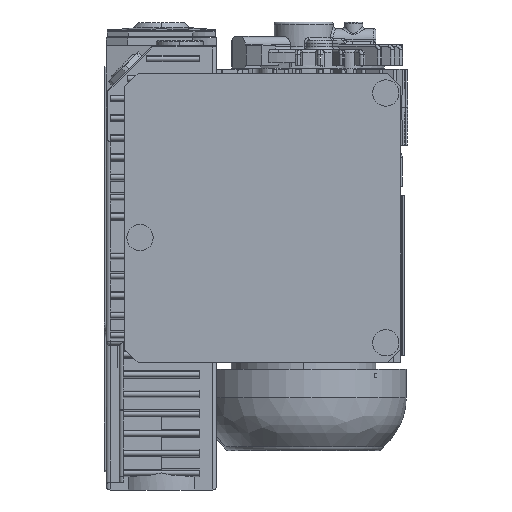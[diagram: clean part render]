
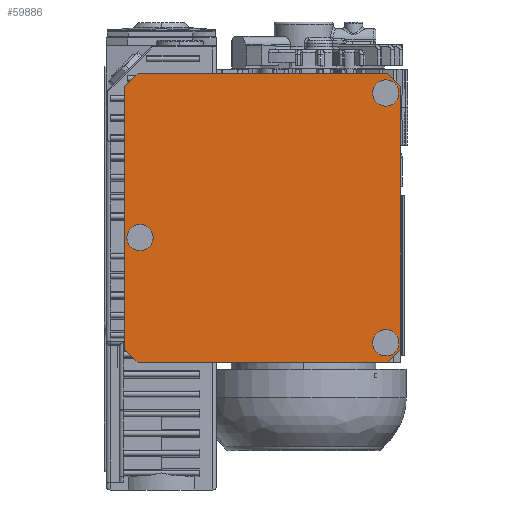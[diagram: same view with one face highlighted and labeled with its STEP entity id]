
A CAD part, front view. The second image highlights one B-rep face of the part: STEP entity #59886.
In plain terms, the highlighted planar face has unit normal (0, -1, 0).
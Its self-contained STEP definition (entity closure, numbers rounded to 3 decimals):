
#59735=DIRECTION('',(0.,0.,1.));
#59736=VECTOR('',#59735,200.);
#59737=CARTESIAN_POINT('',(14.3,-18.,107.));
#59738=LINE('',#59737,#59736);
#59739=DIRECTION('',(1.,0.,0.));
#59740=VECTOR('',#59739,190.);
#59741=CARTESIAN_POINT('',(24.3,-18.,317.));
#59742=LINE('',#59741,#59740);
#59743=DIRECTION('',(0.,0.,-1.));
#59744=VECTOR('',#59743,200.);
#59745=CARTESIAN_POINT('',(224.3,-18.,307.));
#59746=LINE('',#59745,#59744);
#59747=DIRECTION('',(-1.,0.,0.));
#59748=VECTOR('',#59747,190.);
#59749=CARTESIAN_POINT('',(214.3,-18.,97.));
#59750=LINE('',#59749,#59748);
#59755=DIRECTION('',(0.707,0.,-0.707));
#59756=VECTOR('',#59755,14.142);
#59757=CARTESIAN_POINT('',(14.3,-18.,107.));
#59758=LINE('',#59757,#59756);
#59771=DIRECTION('',(0.707,0.,0.707));
#59772=VECTOR('',#59771,14.142);
#59773=CARTESIAN_POINT('',(214.3,-18.,97.));
#59774=LINE('',#59773,#59772);
#59787=DIRECTION('',(-0.707,0.,0.707));
#59788=VECTOR('',#59787,14.142);
#59789=CARTESIAN_POINT('',(224.3,-18.,307.));
#59790=LINE('',#59789,#59788);
#59803=DIRECTION('',(-0.707,0.,-0.707));
#59804=VECTOR('',#59803,14.142);
#59805=CARTESIAN_POINT('',(24.3,-18.,317.));
#59806=LINE('',#59805,#59804);
#59831=CARTESIAN_POINT('',(224.3,-18.,307.));
#59833=VERTEX_POINT('',#59831);
#59835=CARTESIAN_POINT('',(214.3,-18.,317.));
#59837=VERTEX_POINT('',#59835);
#59839=CARTESIAN_POINT('',(24.3,-18.,317.));
#59841=VERTEX_POINT('',#59839);
#59843=CARTESIAN_POINT('',(14.3,-18.,307.));
#59845=VERTEX_POINT('',#59843);
#59847=CARTESIAN_POINT('',(224.3,-18.,107.));
#59848=VERTEX_POINT('',#59847);
#59851=CARTESIAN_POINT('',(14.3,-18.,107.));
#59852=VERTEX_POINT('',#59851);
#59855=CARTESIAN_POINT('',(214.3,-18.,97.));
#59857=VERTEX_POINT('',#59855);
#59859=CARTESIAN_POINT('',(24.3,-18.,97.));
#59861=VERTEX_POINT('',#59859);
#59863=CARTESIAN_POINT('',(14.3,-18.,97.));
#59864=DIRECTION('',(0.,1.,0.));
#59865=DIRECTION('',(1.,0.,0.));
#59866=AXIS2_PLACEMENT_3D('',#59863,#59864,#59865);
#59867=PLANE('',#59866);
#59869=ORIENTED_EDGE('',*,*,#59868,.T.);
#59871=ORIENTED_EDGE('',*,*,#59870,.F.);
#59873=ORIENTED_EDGE('',*,*,#59872,.T.);
#59875=ORIENTED_EDGE('',*,*,#59874,.F.);
#59877=ORIENTED_EDGE('',*,*,#59876,.T.);
#59879=ORIENTED_EDGE('',*,*,#59878,.F.);
#59881=ORIENTED_EDGE('',*,*,#59880,.T.);
#59883=ORIENTED_EDGE('',*,*,#59882,.F.);
#59884=EDGE_LOOP('',(#59869,#59871,#59873,#59875,#59877,#59879,#59881,#59883));
#59885=FACE_OUTER_BOUND('',#59884,.F.);
#59886=ADVANCED_FACE('',(#59885),#59867,.F.);
#59868=EDGE_CURVE('',#59852,#59845,#59738,.T.);
#59870=EDGE_CURVE('',#59841,#59845,#59806,.T.);
#59872=EDGE_CURVE('',#59841,#59837,#59742,.T.);
#59874=EDGE_CURVE('',#59833,#59837,#59790,.T.);
#59876=EDGE_CURVE('',#59833,#59848,#59746,.T.);
#59878=EDGE_CURVE('',#59857,#59848,#59774,.T.);
#59880=EDGE_CURVE('',#59857,#59861,#59750,.T.);
#59882=EDGE_CURVE('',#59852,#59861,#59758,.T.);
